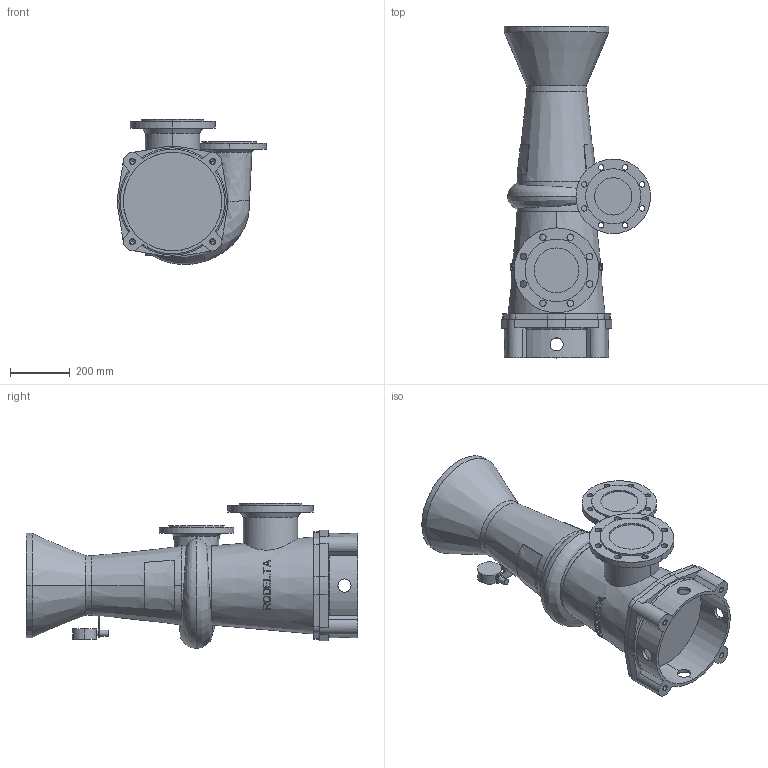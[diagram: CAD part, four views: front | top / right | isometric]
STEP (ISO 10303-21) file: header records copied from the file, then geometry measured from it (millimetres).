
FILE_DESCRIPTION((''),'2;1');
FILE_NAME('NS6210_ASM','2024-07-17T',('Lyritlocal'),(''),'PRO/ENGINEER BY PARAMETRIC TECHNOLOGY CORPORATION, 2016360','PRO/ENGINEER BY PARAMETRIC TECHNOLOGY CORPORATION, 2016360','');
FILE_SCHEMA(('CONFIG_CONTROL_DESIGN'));
Length unit declared in the file: millimetre
Products named in the file (3): 6210_VOET; 6210; NS6210_ASM
Assembly tree (2 placements, depth 2):
  NS6210_ASM
    6210_VOET
    6210
Bounding box: 499.71 x 1112 x 486.17 mm (x, y, z)
Volume: 73509644.5 mm3; surface area: 2060130 mm2
Topology: 2 solids, 6 shells, 517 faces, 1386 edges, 915 vertices
Faces by surface type: plane 342, cylinder 125, cone 40, bspline 6, torus 4
Entity records: 18499 total; most frequent: CARTESIAN_POINT 5977, ORIENTED_EDGE 2740, DIRECTION 2341, EDGE_CURVE 1378, VERTEX_POINT 915, AXIS2_PLACEMENT_3D 908, EDGE_LOOP 607, VECTOR 525
